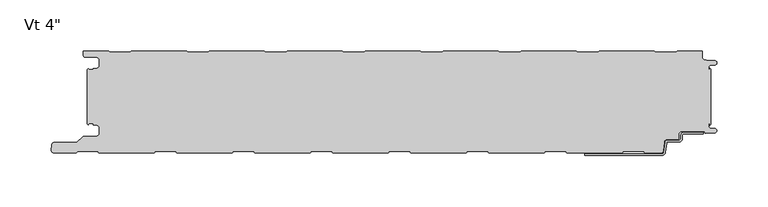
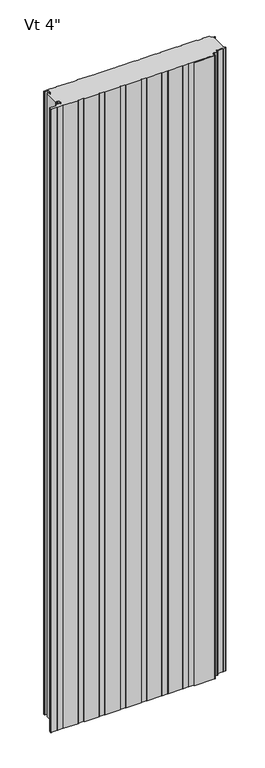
"""IFC4 building model written with IfcOpenShell, lengths in millimetres: plate geometry."""

from ifc_helpers import new_model, si_unit, point, frame, frame_2d, origin, origin_with_axes, place, context, project, spatial, polyline, circle_curve, trimmed, segment, composite_curve, outline, extrude, source, transform, mapped, element, save
from ifc_brep_helpers import plane_surface, cylinder_surface, revolved_surface, advanced_brep


def plate_59946ea0(model_context):
    return source(origin(), model_context, "Body", "SolidModel", [
        advanced_brep(
        [(278.4543181, -80.5008679, 0.0), (297.1995181, -80.5008679, 0.0), (297.1995181, -82.0248679, 0.0), (278.4543181, -82.0248679, 0.0), (276.9303181, -83.5488679, 0.0), (276.9303181, -86.6476679, 0.0), (273.4759181, -90.1020679, 0.0), (262.2633607, -90.1020679, 0.0), (261.5042604, -90.7976552, 0.0), (260.3094328, -100.3416507, 0.0), (257.2730313, -103.124, 0.0), (181.7057181, -103.1360323, 0.0), (181.7057181, -101.6, 0.0), (257.2730313, -101.6, 0.0), (258.7912321, -100.2088254, 0.0), (259.9860597, -90.6648299, 0.0), (262.2633607, -88.5780679, 0.0), (273.4759181, -88.5780679, 0.0), (275.4063181, -86.6476679, 0.0), (275.4063181, -83.5488679, 0.0), (278.4543181, -80.5008679, 2400.0), (275.4063181, -83.5488679, 2400.0), (275.4063181, -86.6476679, 2400.0), (273.4759181, -88.5780679, 2400.0), (262.2633607, -88.5780679, 2400.0), (259.9860597, -90.6648299, 2400.0), (258.7912321, -100.2088254, 2400.0), (257.2730313, -101.6, 2400.0), (181.7057181, -101.6, 2400.0), (181.7057181, -103.1360323, 2400.0), (257.2730313, -103.1360323, 2400.0), (260.3094328, -100.3416507, 2400.0), (261.5042604, -90.7976552, 2400.0), (262.2633607, -90.1020679, 2400.0), (273.4759181, -90.1020679, 2400.0), (276.9303181, -86.6476679, 2400.0), (276.9303181, -83.5488679, 2400.0), (278.4543181, -82.0248679, 2400.0), (297.1995181, -82.0248679, 2400.0), (297.1995181, -80.5008679, 2400.0)],
        [
            (0, 1),
            (1, 2),
            (2, 3),
            (3, 4, circle_curve(frame((278.4543181, -83.5488679, 0.0), z_axis=(0.0, 0.0, 1.0), x_axis=(0.0, 1.0, 0.0)), 1.524)),
            (4, 5),
            (5, 6, circle_curve(frame((273.4759181, -86.6476679, 0.0), z_axis=(0.0, 0.0, -1.0), x_axis=(0.0, 1.0, 0.0)), 3.4544)),
            (6, 7),
            (7, 8, circle_curve(frame((262.2633607, -90.8640679, 0.0), z_axis=(0.0, 0.0, 1.0), x_axis=(0.0, 1.0, 0.0)), 0.762)),
            (8, 9),
            (9, 10, circle_curve(frame((257.2730313, -100.076, 0.0), z_axis=(0.0, 0.0, -1.0), x_axis=(0.0, 1.0, 0.0)), 3.048)),
            (10, 11),
            (11, 12),
            (12, 13),
            (13, 14, circle_curve(frame((257.2730313, -100.076, 0.0), z_axis=(0.0, 0.0, 1.0), x_axis=(0.0, 1.0, 0.0)), 1.524)),
            (14, 15),
            (15, 16, circle_curve(frame((262.2633607, -90.8640679, 0.0), z_axis=(0.0, 0.0, -1.0), x_axis=(0.0, 1.0, 0.0)), 2.286)),
            (16, 17),
            (17, 18, circle_curve(frame((273.4759181, -86.6476679, 0.0), z_axis=(0.0, 0.0, 1.0), x_axis=(0.0, 1.0, 0.0)), 1.9304)),
            (18, 19),
            (19, 0, circle_curve(frame((278.4543181, -83.5488679, 0.0), z_axis=(0.0, 0.0, -1.0), x_axis=(0.0, 1.0, 0.0)), 3.048)),
            (20, 21, circle_curve(frame((278.4543181, -83.5488679, 2400.0), z_axis=(0.0, 0.0, 1.0), x_axis=(0.0, 1.0, 0.0)), 3.048)),
            (21, 22),
            (22, 23, circle_curve(frame((273.4759181, -86.6476679, 2400.0), z_axis=(0.0, 0.0, -1.0), x_axis=(0.0, 1.0, 0.0)), 1.9304)),
            (23, 24),
            (24, 25, circle_curve(frame((262.2633607, -90.8640679, 2400.0), z_axis=(0.0, 0.0, 1.0), x_axis=(0.0, 1.0, 0.0)), 2.286)),
            (25, 26),
            (26, 27, circle_curve(frame((257.2730313, -100.076, 2400.0), z_axis=(0.0, 0.0, -1.0), x_axis=(0.0, 1.0, 0.0)), 1.524)),
            (27, 28),
            (28, 29),
            (29, 30),
            (30, 31, circle_curve(frame((257.2730313, -100.076, 2400.0), z_axis=(0.0, 0.0, 1.0), x_axis=(0.0, 1.0, 0.0)), 3.048)),
            (31, 32),
            (32, 33, circle_curve(frame((262.2633607, -90.8640679, 2400.0), z_axis=(0.0, 0.0, -1.0), x_axis=(0.0, 1.0, 0.0)), 0.762)),
            (33, 34),
            (34, 35, circle_curve(frame((273.4759181, -86.6476679, 2400.0), z_axis=(0.0, 0.0, 1.0), x_axis=(0.0, 1.0, 0.0)), 3.4544)),
            (35, 36),
            (36, 37, circle_curve(frame((278.4543181, -83.5488679, 2400.0), z_axis=(0.0, 0.0, -1.0), x_axis=(0.0, 1.0, 0.0)), 1.524)),
            (37, 38),
            (38, 39),
            (39, 20),
            (2, 38),
            (37, 3),
            (15, 25),
            (24, 16),
            (7, 33),
            (32, 8),
            (5, 35),
            (34, 6),
            (1, 39),
            (36, 4),
            (9, 31),
            (30, 10),
            (13, 27),
            (26, 14),
            (0, 20),
            (12, 28),
            (29, 11),
            (23, 17),
            (18, 22),
            (21, 19),
        ],
        [
            plane_surface(frame((297.1995181, -101.6, 0.0), z_axis=(0.0, 0.0, -1.0), x_axis=(-1.0, 0.0, 0.0))),
            plane_surface(frame((297.1995181, -101.6, 2400.0), z_axis=(0.0, 0.0, 1.0), x_axis=(-1.0, 0.0, 0.0))),
            plane_surface(frame((278.4543181, -82.0248679, 0.0), z_axis=(0.0, -1.0, 0.0), x_axis=(0.0, 0.0, 1.0))),
            cylinder_surface(frame((262.2633607, -90.8640679, 0.0), z_axis=(0.0, 0.0, -1.0), x_axis=(0.0, 1.0, 0.0)), 2.286),
            revolved_surface(polyline([(262.2633607, -90.1020679, 2400.0), (262.2633607, -90.1020679, 0.0)]), (262.2633607, -90.8640679, 0.0), (0.0, 0.0, 1.0)),
            cylinder_surface(frame((273.4759181, -86.6476679, 0.0), z_axis=(0.0, 0.0, -1.0), x_axis=(0.0, 1.0, 0.0)), 3.4544),
            plane_surface(frame((297.1995181, -82.0248679, 0.0), z_axis=(1.0, 0.0, 0.0), x_axis=(0.0, 0.0, 1.0))),
            revolved_surface(polyline([(278.4543181, -82.0248679, 2400.0), (278.4543181, -82.0248679, 0.0)]), (278.4543181, -83.5488679, 0.0), (0.0, 0.0, 1.0)),
            cylinder_surface(frame((257.2730313, -100.076, 0.0), z_axis=(0.0, 0.0, -1.0), x_axis=(0.0, 1.0, 0.0)), 3.048),
            revolved_surface(polyline([(257.2730313, -98.55199999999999, 2400.0), (257.2730313, -98.55199999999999, 0.0)]), (257.2730313, -100.076, 0.0), (0.0, 0.0, 1.0)),
            plane_surface(frame((297.1995181, -80.5008679, 0.0), z_axis=(0.0, 1.0, 0.0), x_axis=(0.0, 0.0, 1.0))),
            plane_surface(frame((259.9860597, -90.6648299, 0.0), z_axis=(-0.992254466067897, 0.12422187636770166, 0.0), x_axis=(0.0, 0.0, 1.0))),
            plane_surface(frame((257.2730313, -101.6, 0.0), z_axis=(0.0, 1.0, 0.0), x_axis=(0.0, 0.0, 1.0))),
            plane_surface(frame((260.3094328, -100.3416507, 0.0), z_axis=(0.9922544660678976, -0.12422187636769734, 0.0), x_axis=(0.0, 0.0, 1.0))),
            plane_surface(frame((276.9303181, -86.6476679, 0.0), z_axis=(1.0, 0.0, 0.0), x_axis=(0.0, 0.0, 1.0))),
            plane_surface(frame((181.7057181, -103.1360323, 0.0), z_axis=(0.0, -1.0, 0.0), x_axis=(0.0, 0.0, 1.0))),
            plane_surface(frame((181.7057181, -101.6, 0.0), z_axis=(-1.0, 0.0, 0.0), x_axis=(0.0, 0.0, 1.0))),
            plane_surface(frame((273.4759181, -88.5780679, 0.0), z_axis=(0.0, 1.0, 0.0), x_axis=(0.0, 0.0, 1.0))),
            plane_surface(frame((275.4063181, -83.5488679, 0.0), z_axis=(-1.0, 0.0, 0.0), x_axis=(0.0, 0.0, 1.0))),
            plane_surface(frame((262.2633607, -90.1020679, 0.0), z_axis=(0.0, -1.0, 0.0), x_axis=(0.0, 0.0, 1.0))),
            revolved_surface(polyline([(273.4759181, -84.7172679, 2400.0), (273.4759181, -84.7172679, 0.0)]), (273.4759181, -86.6476679, 0.0), (0.0, 0.0, 1.0)),
            cylinder_surface(frame((278.4543181, -83.5488679, 0.0), z_axis=(0.0, 0.0, -1.0), x_axis=(0.0, 1.0, 0.0)), 3.048),
        ],
        [
            (0, [[1, 2, 3, 4, 5, 6, 7, 8, 9, 10, 11, 12, 13, 14, 15, 16, 17, 18, 19, 20]]),
            (1, [[21, 22, 23, 24, 25, 26, 27, 28, 29, 30, 31, 32, 33, 34, 35, 36, 37, 38, 39, 40]]),
            (2, [[41, -38, 42, -3]]),
            (3, [[43, -25, 44, -16]]),
            (4, [[45, -33, 46, -8]]),
            (5, [[47, -35, 48, -6]]),
            (6, [[49, -39, -41, -2]]),
            (7, [[-42, -37, 50, -4]]),
            (8, [[51, -31, 52, -10]]),
            (9, [[53, -27, 54, -14]]),
            (10, [[55, -40, -49, -1]]),
            (11, [[-54, -26, -43, -15]]),
            (12, [[56, -28, -53, -13]]),
            (13, [[-46, -32, -51, -9]]),
            (14, [[-50, -36, -47, -5]]),
            (15, [[-52, -30, 57, -11]]),
            (16, [[-57, -29, -56, -12]]),
            (17, [[-44, -24, 58, -17]]),
            (18, [[59, -22, 60, -19]]),
            (19, [[-48, -34, -45, -7]]),
            (20, [[-58, -23, -59, -18]]),
            (21, [[-60, -21, -55, -20]]),
        ],
    ),
        extrude(outline(composite_curve([segment(polyline([(-303.7683001, -73.2760161), (-304.8, -72.2443162), (-304.8, -19.0328308), (-303.7686883, -18.0015192)]), True, "CONTINUOUS"), segment(trimmed(circle_curve(frame_2d((-302.7686911, -18.0015133)), 0.9999972), [point((-303.7686883, -18.0015192))], [point((-302.7686911, -19.0015105))], True, "CARTESIAN"), True, "CONTINUOUS"), segment(polyline([(-302.7686911, -19.0015105), (-298.7684875, -19.0015105), (-298.7684875, -18.0015159), (-296.0762777, -18.0015159)]), True, "CONTINUOUS"), segment(trimmed(circle_curve(frame_2d((-296.0762777, -14.7015202)), 3.2999957), [point((-296.0762777, -18.0015159))], [point((-292.776282, -14.7015202))], True, "CARTESIAN"), True, "CONTINUOUS"), segment(polyline([(-292.776282, -14.7015202), (-292.776282, -10.301529)]), True, "CONTINUOUS"), segment(trimmed(circle_curve(frame_2d((-296.0762778, -10.301529)), 3.2999959), [point((-292.776282, -10.301529))], [point((-296.0762778, -7.0015331))], True, "CARTESIAN"), True, "CONTINUOUS"), segment(polyline([(-296.0762778, -7.0015331), (-306.4962564, -7.0015331)]), True, "CONTINUOUS"), segment(trimmed(circle_curve(frame_2d((-306.4962564, -5.2315389)), 1.7699942), [point((-306.4962564, -7.0015331))], [point((-308.2662506, -5.2315389))], False, "CARTESIAN"), True, "CONTINUOUS"), segment(polyline([(-308.2662506, -5.2315389), (-308.2662506, -0.9999916), (-283.765974, -0.9999916), (-282.3803313, -2.2002307), (-263.005165, -2.2002307), (-261.6195321, -1.0), (-207.5661167, -1.0), (-206.1804837, -2.2002307), (-186.8053174, -2.2002307), (-185.4196845, -1.0), (-131.3662691, -1.0), (-129.9806361, -2.2002307), (-110.6054698, -2.2002307), (-109.2198369, -1.0), (-55.1664215, -1.0), (-53.7807885, -2.2002307), (-34.4056222, -2.2002307), (-33.0199893, -1.0), (21.0334261, -1.0), (22.4190591, -2.2002307), (41.7942254, -2.2002307), (43.1798583, -1.0), (97.2332737, -1.0), (98.6189067, -2.2002307), (117.994073, -2.2002307), (119.3797059, -1.0), (173.4331213, -1.0), (174.8187543, -2.2002307), (194.1939206, -2.2002307), (195.5795535, -1.0), (249.6329689, -1.0), (251.0186019, -2.2002307), (270.3937682, -2.2002307), (271.7794011, -1.0), (296.2787013, -1.0), (296.2787013, -6.0026007)]), True, "CONTINUOUS"), segment(trimmed(circle_curve(frame_2d((300.2939817, -5.9867338)), 4.0153117), [point((296.2787013, -6.0026007))], [point((300.1016499, -9.9974365))], True, "CARTESIAN"), True, "CONTINUOUS"), segment(polyline([(300.1016499, -9.9974365), (308.5931719, -10.4046442)]), True, "CONTINUOUS"), segment(trimmed(circle_curve(frame_2d((308.4781032, -12.5552871)), 2.153719), [point((308.5931719, -10.4046442))], [point((308.5921924, -14.7059822))], False, "CARTESIAN"), True, "CONTINUOUS"), segment(polyline([(308.5921924, -14.7059822), (304.4513685, -14.9256429)]), True, "CONTINUOUS"), segment(trimmed(circle_curve(frame_2d((304.5186869, -16.6743462)), 1.7499985), [point((304.4513685, -14.9256429))], [point((302.7686884, -16.6743462))], True, "CARTESIAN"), True, "CONTINUOUS"), segment(polyline([(302.7686884, -16.6743462), (302.7686884, -19.0015288), (303.7686884, -19.0015288), (303.7686884, -17.5871409), (304.8, -18.6184525), (304.8, -72.6586945), (303.7686884, -73.6900061), (303.7686884, -72.1025061), (302.7686884, -72.1025061), (302.7686884, -74.8870527)]), True, "CONTINUOUS"), segment(trimmed(circle_curve(frame_2d((304.6099653, -74.8434917)), 1.8417922), [point((302.7686884, -74.8870527))], [point((304.4977997, -76.6818653))], True, "CARTESIAN"), True, "CONTINUOUS"), segment(polyline([(304.4977997, -76.6818653), (308.5037148, -76.9262802)]), True, "CONTINUOUS"), segment(trimmed(circle_curve(frame_2d((308.4236622, -79.0266291)), 2.1018739), [point((308.5037148, -76.9262802))], [point((308.506811, -81.1268578))], False, "CARTESIAN"), True, "CONTINUOUS"), segment(polyline([(308.506811, -81.1268578), (299.5334028, -81.4821181), (298.3895515, -79.5012703), (277.2091924, -79.5012703)]), True, "CONTINUOUS"), segment(trimmed(circle_curve(frame_2d((277.2091924, -83.5007233)), 3.9994529), [point((277.2091924, -79.5012703))], [point((273.2097394, -83.5007233))], True, "CARTESIAN"), True, "CONTINUOUS"), segment(polyline([(273.2097394, -83.5007233), (273.2097394, -86.6443786)]), True, "CONTINUOUS"), segment(trimmed(circle_curve(frame_2d((272.2583308, -86.6443786)), 0.9514087), [point((273.2097394, -86.6443786))], [point((272.2583308, -87.5957873))], False, "CARTESIAN"), True, "CONTINUOUS"), segment(polyline([(272.2583308, -87.5957873), (262.1653654, -87.5957873)]), True, "CONTINUOUS"), segment(trimmed(circle_curve(frame_2d((262.0396267, -90.6231732)), 3.0299959), [point((262.1653654, -87.5957873))], [point((259.021161, -90.3590902))], True, "CARTESIAN"), True, "CONTINUOUS"), segment(polyline([(259.021161, -90.3590902), (258.2671075, -98.8178029)]), True, "CONTINUOUS"), segment(trimmed(circle_curve(frame_2d((256.3156233, -98.6461194)), 1.9590216), [point((258.2671075, -98.8178029))], [point((256.3156233, -100.6051411))], False, "CARTESIAN"), True, "CONTINUOUS"), segment(polyline([(256.3156233, -100.6051411), (240.2456965, -100.6051411), (239.0403247, -99.3997693), (219.3209122, -99.3997693), (218.1206815, -100.6), (164.0405497, -100.6), (162.840319, -99.3997693), (143.1209065, -99.3997693), (141.9206758, -100.6), (87.840544, -100.6), (86.6403133, -99.3997693), (66.9209008, -99.3997693), (65.7206701, -100.6), (11.6405383, -100.6), (10.4403076, -99.3997693), (-9.2791049, -99.3997693), (-10.4793356, -100.6), (-64.5594674, -100.6), (-65.7596981, -99.3997693), (-85.4791106, -99.3997693), (-86.6793413, -100.6), (-140.7594731, -100.6), (-141.9597038, -99.3997693), (-161.6791163, -99.3997693), (-162.879347, -100.6), (-216.9594787, -100.6), (-218.1597095, -99.3997693), (-237.879122, -99.3997693), (-239.0793527, -100.6), (-293.1594844, -100.6), (-294.3597151, -99.3997693), (-314.0791277, -99.3997693), (-315.2790962, -100.5997378), (-337.2521176, -100.5997378)]), True, "CONTINUOUS"), segment(trimmed(circle_curve(frame_2d((-337.2521176, -98.0294985)), 2.5702393), [point((-337.2521176, -100.5997378))], [point((-339.8125699, -97.8054129))], False, "CARTESIAN"), True, "CONTINUOUS"), segment(polyline([(-339.8125699, -97.8054129), (-339.3765709, -92.823592)]), True, "CONTINUOUS"), segment(trimmed(circle_curve(frame_2d((-336.7198392, -93.3049826)), 2.6999926), [point((-339.3765709, -92.823592))], [point((-336.7198392, -90.60499))], False, "CARTESIAN"), True, "CONTINUOUS"), segment(polyline([(-336.7198392, -90.60499), (-314.6247096, -90.60499), (-309.1226385, -85.1029189)]), True, "CONTINUOUS"), segment(trimmed(circle_curve(frame_2d((-307.9205608, -86.3049966)), 1.6999946), [point((-309.1226385, -85.1029189))], [point((-307.9205608, -84.605002))], False, "CARTESIAN"), True, "CONTINUOUS"), segment(polyline([(-307.9205608, -84.605002), (-296.1096717, -84.605002)]), True, "CONTINUOUS"), segment(trimmed(circle_curve(frame_2d((-296.1096717, -81.2550067)), 3.3499953), [point((-296.1096717, -84.605002))], [point((-292.7596764, -81.2550067))], True, "CARTESIAN"), True, "CONTINUOUS"), segment(polyline([(-292.7596764, -81.2550067), (-292.7596764, -76.8550155)]), True, "CONTINUOUS"), segment(trimmed(circle_curve(frame_2d((-296.1096717, -76.8550155)), 3.3499953), [point((-292.7596764, -76.8550155))], [point((-296.1096717, -73.5050202))], True, "CARTESIAN"), True, "CONTINUOUS"), segment(polyline([(-296.1096717, -73.5050202), (-298.8087827, -73.5050202), (-298.8087827, -72.1065413), (-302.5671761, -72.1065413)]), True, "CONTINUOUS"), segment(trimmed(circle_curve(frame_2d((-302.5686908, -73.306538)), 1.1999976), [point((-302.5671761, -72.1065413))], [point((-303.7683001, -73.2760161))], True, "CARTESIAN"), True, "CONTINUOUS")], self_intersect=False)), origin_with_axes(), (0.0, 0.0, 1.0), 2400.0),
    ])


if __name__ == "__main__":
    model = new_model("IFC4")
    model_context = context("Model", 3, world=origin())
    ifc_project = project(units=[si_unit("LENGTHUNIT", "METRE", prefix="MILLI")], contexts=[model_context])
    site = spatial("IfcSite", under=ifc_project)
    building = spatial("IfcBuilding", under=site)
    placement = place(None, origin())
    plate_shape = plate_59946ea0(model_context)
    element("IfcPlate", 1, ObjectType="KIP-24-Karrier-KP-R19-CP-Vt-SL3-8in_SL : Vt 4\"", at=placement, inside=building, context=model_context, shape_type="MappedRepresentation", body=[
        mapped(plate_shape, transform((0.0, 0.0, 0.0), x_axis=(1.0, 0.0, 0.0), y_axis=(0.0, 1.0, 0.0), z_axis=(0.0, 0.0, 1.0))),
    ])
    save(model, "model.ifc")
